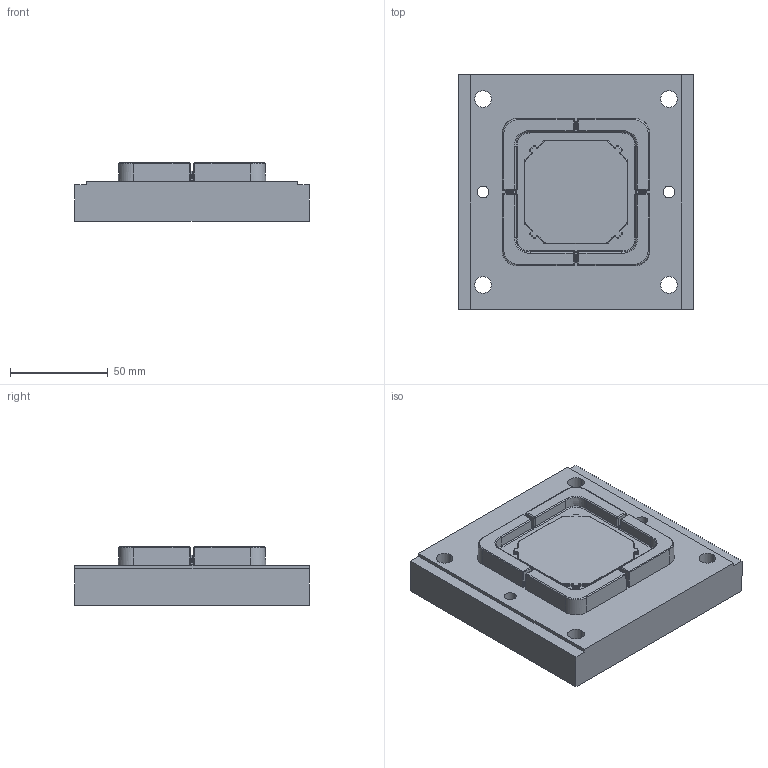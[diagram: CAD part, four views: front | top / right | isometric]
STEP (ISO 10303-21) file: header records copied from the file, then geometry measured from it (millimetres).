
FILE_DESCRIPTION (( 'STEP AP214' ), '1' );
FILE_NAME ('Mould_Switch-Frame-Side_B.STEP', '2020-01-06T13:12:47', ( 'Ritterchen' ), ( 'Microsoft' ), 'SwSTEP 2.0', 'SolidWorks 2020', '' );
FILE_SCHEMA (( 'AUTOMOTIVE_DESIGN' ));
Length unit declared in the file: millimetre
Products named in the file (1): Mould_Switch-Frame-Side_B
Bounding box: 120 x 120 x 30 mm (x, y, z)
Volume: 320660.7 mm3; surface area: 45330.7 mm2
Topology: 1 solids, 1 shells, 417 faces, 1035 edges, 623 vertices
Faces by surface type: bspline 292, plane 113, cylinder 12
Entity records: 16717 total; most frequent: CARTESIAN_POINT 9604, ORIENTED_EDGE 2070, EDGE_CURVE 1035, B_SPLINE_CURVE_WITH_KNOTS 715, VERTEX_POINT 623, DIRECTION 492, EDGE_LOOP 432, ADVANCED_FACE 417
